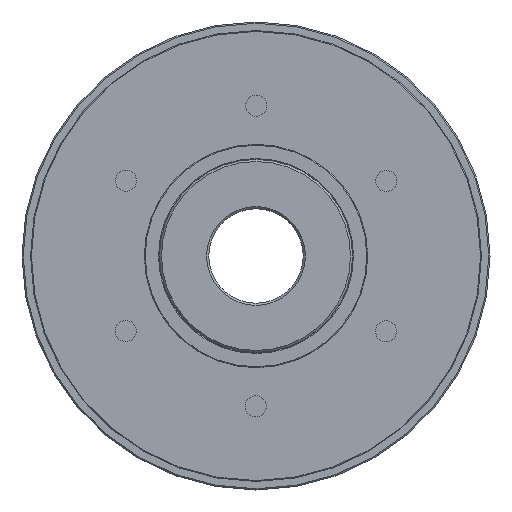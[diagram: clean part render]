
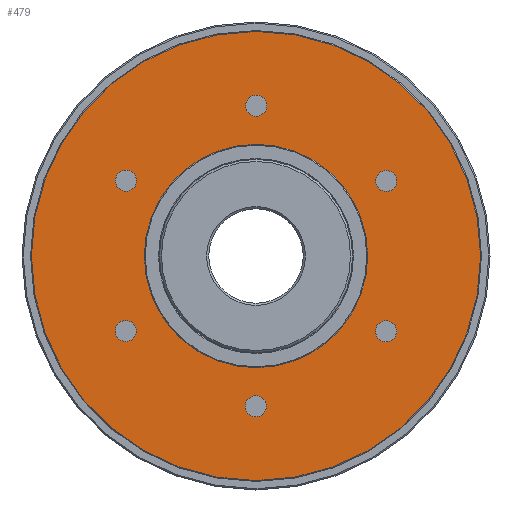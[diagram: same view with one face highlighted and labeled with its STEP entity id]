
A CAD part, left-side view. The second image highlights one B-rep face of the part: STEP entity #479.
In plain terms, the highlighted planar face has unit normal (-1, 0, 0).
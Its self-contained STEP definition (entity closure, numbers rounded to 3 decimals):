
#479 = ADVANCED_FACE( '', ( #979, #980, #981, #982, #983, #984, #985, #986 ), #987, .T. );
#979 = FACE_BOUND( '', #1537, .T. );
#980 = FACE_BOUND( '', #1538, .T. );
#981 = FACE_BOUND( '', #1539, .T. );
#982 = FACE_BOUND( '', #1540, .T. );
#983 = FACE_BOUND( '', #1541, .T. );
#984 = FACE_BOUND( '', #1542, .T. );
#985 = FACE_OUTER_BOUND( '', #1543, .T. );
#986 = FACE_BOUND( '', #1544, .T. );
#987 = PLANE( '', #1545 );
#1537 = EDGE_LOOP( '', ( #2265 ) );
#1538 = EDGE_LOOP( '', ( #2266 ) );
#1539 = EDGE_LOOP( '', ( #2267 ) );
#1540 = EDGE_LOOP( '', ( #2268 ) );
#1541 = EDGE_LOOP( '', ( #2269 ) );
#1542 = EDGE_LOOP( '', ( #2270 ) );
#1543 = EDGE_LOOP( '', ( #2271 ) );
#1544 = EDGE_LOOP( '', ( #2272 ) );
#1545 = AXIS2_PLACEMENT_3D( '', #2273, #2274, #2275 );
#2265 = ORIENTED_EDGE( '', *, *, #2760, .T. );
#2266 = ORIENTED_EDGE( '', *, *, #2858, .T. );
#2267 = ORIENTED_EDGE( '', *, *, #2785, .T. );
#2268 = ORIENTED_EDGE( '', *, *, #2859, .T. );
#2269 = ORIENTED_EDGE( '', *, *, #2821, .T. );
#2270 = ORIENTED_EDGE( '', *, *, #2860, .T. );
#2271 = ORIENTED_EDGE( '', *, *, #2788, .T. );
#2272 = ORIENTED_EDGE( '', *, *, #2716, .F. );
#2273 = CARTESIAN_POINT( '', ( 21.5, 0., 26. ) );
#2274 = DIRECTION( '', ( -1., 0., 0. ) );
#2275 = DIRECTION( '', ( 0., 0., 1. ) );
#2716 = EDGE_CURVE( '', #3076, #3076, #3077, .T. );
#2760 = EDGE_CURVE( '', #3150, #3150, #3151, .T. );
#2785 = EDGE_CURVE( '', #3188, #3188, #3189, .T. );
#2788 = EDGE_CURVE( '', #3193, #3193, #3194, .T. );
#2821 = EDGE_CURVE( '', #3241, #3241, #3242, .T. );
#2858 = EDGE_CURVE( '', #3290, #3290, #3291, .T. );
#2859 = EDGE_CURVE( '', #3292, #3292, #3293, .T. );
#2860 = EDGE_CURVE( '', #3294, #3294, #3295, .T. );
#3076 = VERTEX_POINT( '', #3803 );
#3077 = CIRCLE( '', #3804, 26. );
#3150 = VERTEX_POINT( '', #3939 );
#3151 = CIRCLE( '', #3940, 2.459 );
#3188 = VERTEX_POINT( '', #3984 );
#3189 = CIRCLE( '', #3985, 2.459 );
#3193 = VERTEX_POINT( '', #3989 );
#3194 = CIRCLE( '', #3990, 52.3 );
#3241 = VERTEX_POINT( '', #4093 );
#3242 = CIRCLE( '', #4094, 2.459 );
#3290 = VERTEX_POINT( '', #4148 );
#3291 = CIRCLE( '', #4149, 2.459 );
#3292 = VERTEX_POINT( '', #4150 );
#3293 = CIRCLE( '', #4151, 2.459 );
#3294 = VERTEX_POINT( '', #4152 );
#3295 = CIRCLE( '', #4153, 2.459 );
#3803 = CARTESIAN_POINT( '', ( 21.5, 0., 26. ) );
#3804 = AXIS2_PLACEMENT_3D( '', #4556, #4557, #4558 );
#3939 = CARTESIAN_POINT( '', ( 21.5, 32.44, 18.729 ) );
#3940 = AXIS2_PLACEMENT_3D( '', #4624, #4625, #4626 );
#3984 = CARTESIAN_POINT( '', ( 21.5, 0., -37.459 ) );
#3985 = AXIS2_PLACEMENT_3D( '', #4661, #4662, #4663 );
#3989 = CARTESIAN_POINT( '', ( 21.5, 0., 52.3 ) );
#3990 = AXIS2_PLACEMENT_3D( '', #4667, #4668, #4669 );
#4093 = CARTESIAN_POINT( '', ( 21.5, -32.44, 18.729 ) );
#4094 = AXIS2_PLACEMENT_3D( '', #4714, #4715, #4716 );
#4148 = CARTESIAN_POINT( '', ( 21.5, 32.44, -18.729 ) );
#4149 = AXIS2_PLACEMENT_3D( '', #4756, #4757, #4758 );
#4150 = CARTESIAN_POINT( '', ( 21.5, -32.44, -18.729 ) );
#4151 = AXIS2_PLACEMENT_3D( '', #4759, #4760, #4761 );
#4152 = CARTESIAN_POINT( '', ( 21.5, 0., 37.459 ) );
#4153 = AXIS2_PLACEMENT_3D( '', #4762, #4763, #4764 );
#4556 = CARTESIAN_POINT( '', ( 21.5, 0., 0. ) );
#4557 = DIRECTION( '', ( -1., 0., 0. ) );
#4558 = DIRECTION( '', ( 0., 0., 1. ) );
#4624 = CARTESIAN_POINT( '', ( 21.5, 30.311, 17.5 ) );
#4625 = DIRECTION( '', ( 1., 0., 0. ) );
#4626 = DIRECTION( '', ( 0., 0.866, 0.5 ) );
#4661 = CARTESIAN_POINT( '', ( 21.5, 0., -35. ) );
#4662 = DIRECTION( '', ( 1., 0., 0. ) );
#4663 = DIRECTION( '', ( 0., 0., -1. ) );
#4667 = CARTESIAN_POINT( '', ( 21.5, 0., 0. ) );
#4668 = DIRECTION( '', ( -1., 0., 0. ) );
#4669 = DIRECTION( '', ( 0., 0., 1. ) );
#4714 = CARTESIAN_POINT( '', ( 21.5, -30.311, 17.5 ) );
#4715 = DIRECTION( '', ( 1., 0., 0. ) );
#4716 = DIRECTION( '', ( 0., -0.866, 0.5 ) );
#4756 = CARTESIAN_POINT( '', ( 21.5, 30.311, -17.5 ) );
#4757 = DIRECTION( '', ( 1., 0., 0. ) );
#4758 = DIRECTION( '', ( 0., 0.866, -0.5 ) );
#4759 = CARTESIAN_POINT( '', ( 21.5, -30.311, -17.5 ) );
#4760 = DIRECTION( '', ( 1., 0., 0. ) );
#4761 = DIRECTION( '', ( 0., -0.866, -0.5 ) );
#4762 = CARTESIAN_POINT( '', ( 21.5, 0., 35. ) );
#4763 = DIRECTION( '', ( 1., 0., 0. ) );
#4764 = DIRECTION( '', ( 0., 0., 1. ) );
